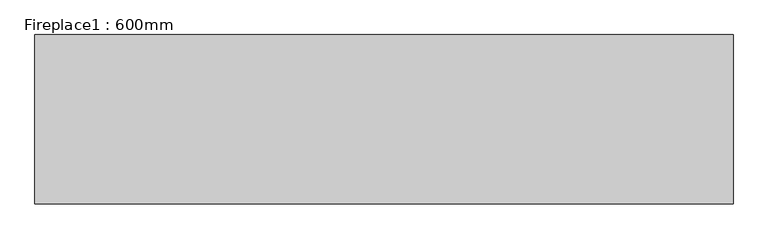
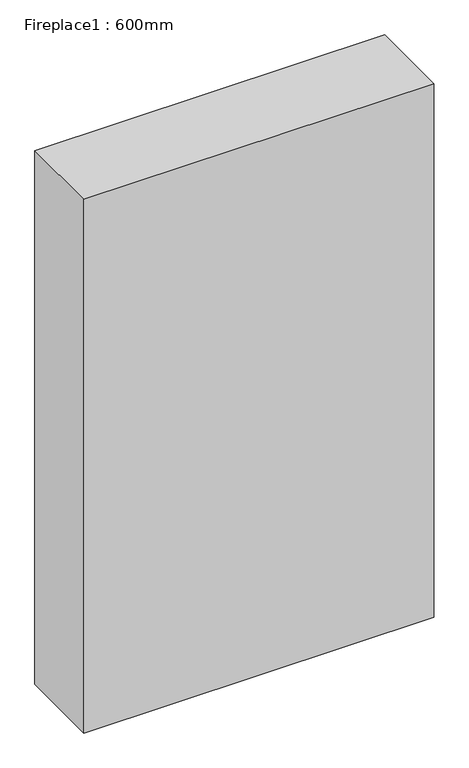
"""IFC4 building model written with IfcOpenShell, lengths in millimetres: proxy geometry, Fireplace1 : 600mm."""

from ifc_helpers import new_model, si_unit, origin, origin_with_axes, place, context, project, spatial, polyline, outline, extrude, source, transform, mapped, element, save


def fireplace1_600mm_caf5e62f(model_context):
    return source(origin(), model_context, "Body", "SweptSolid", [
        extrude(outline(polyline([(850.9, -100.0), (850.9, -512.75), (-850.9, -512.75), (-850.9, -100.0), (850.9, -100.0)])), origin_with_axes(), (0.0, 0.0, 1.0), 2743.2),
    ])


if __name__ == "__main__":
    model = new_model("IFC4")
    model_context = context("Model", 3, world=origin())
    ifc_project = project(units=[si_unit("LENGTHUNIT", "METRE", prefix="MILLI")], contexts=[model_context])
    site = spatial("IfcSite", under=ifc_project)
    building = spatial("IfcBuilding", under=site)
    placement = place(None, origin())
    fireplace1_600mm_shape = fireplace1_600mm_caf5e62f(model_context)
    element("IfcBuildingElementProxy", 1, Name="Fireplace1 : 600mm", ObjectType="Fireplace1 : 600mm", at=placement, inside=building, context=model_context, shape_type="MappedRepresentation", body=[
        mapped(fireplace1_600mm_shape, transform((0.0, 0.0, 0.0), x_axis=(1.0, 0.0, 0.0), y_axis=(0.0, 1.0, 0.0), z_axis=(0.0, 0.0, 1.0))),
    ])
    save(model, "model.ifc")
